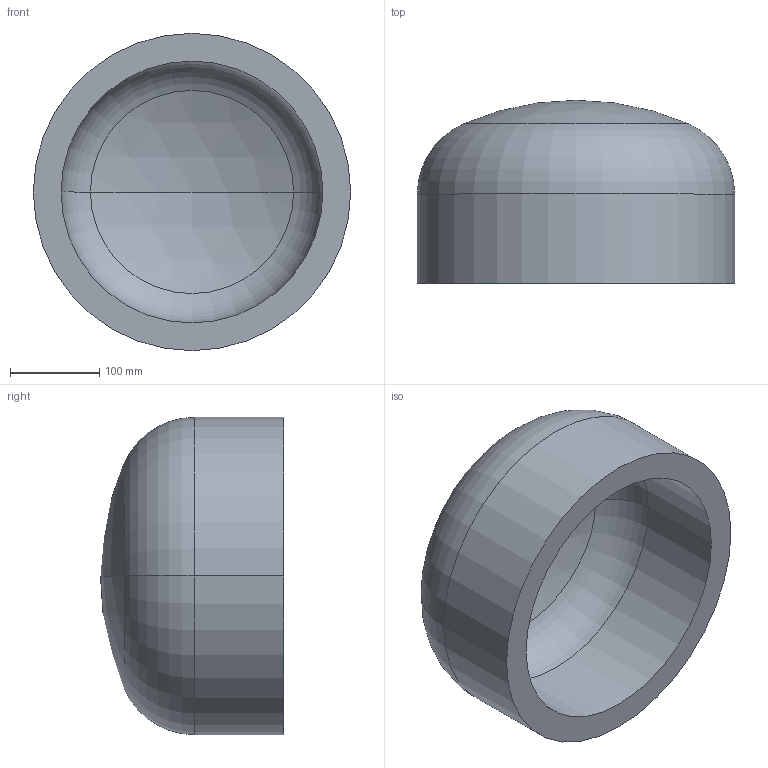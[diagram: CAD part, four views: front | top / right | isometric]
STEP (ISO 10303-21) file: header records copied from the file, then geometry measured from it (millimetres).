
FILE_DESCRIPTION (( 'STEP AP203' ), '1' );
FILE_NAME ('DIN 28013 Korbbogenform_-_Boden DIN 28013 - 355,6 x 100 - I - s=31.step', '2016-07-01T07:47:36', ( '' ), ( '' ), 'SwSTEP 2.0', 'SolidWorks 2013', '' );
FILE_SCHEMA (( 'CONFIG_CONTROL_DESIGN' ));
Length unit declared in the file: millimetre
Products named in the file (1): DIN 28013 Korbbogenform_-_Boden DIN 28013 - 355,6 x 100 - I - s=31
Bounding box: 355.6 x 205.21 x 355.6 mm (x, y, z)
Volume: 6989228.4 mm3; surface area: 484543.2 mm2
Topology: 1 solids, 1 shells, 13 faces, 24 edges, 14 vertices
Faces by surface type: torus 4, cylinder 4, sphere 4, plane 1
Entity records: 407 total; most frequent: DIRECTION 72, CARTESIAN_POINT 52, ORIENTED_EDGE 48, AXIS2_PLACEMENT_3D 34, EDGE_CURVE 24, CIRCLE 20, VERTEX_POINT 14, EDGE_LOOP 14
